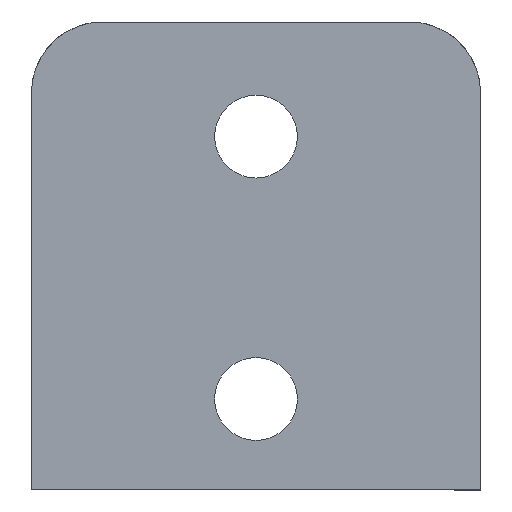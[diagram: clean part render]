
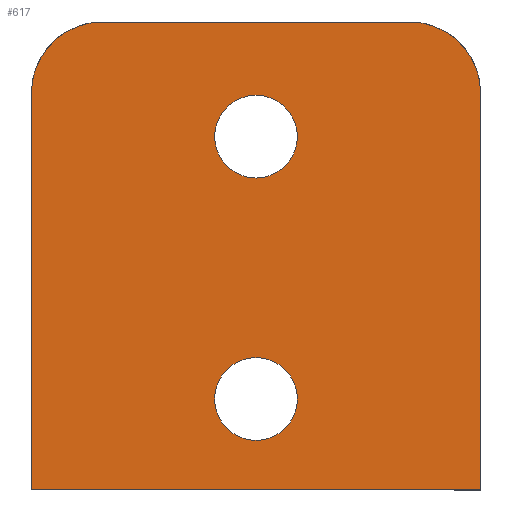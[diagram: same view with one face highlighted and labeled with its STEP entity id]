
A CAD part, front view. The second image highlights one B-rep face of the part: STEP entity #617.
In plain terms, the highlighted planar face has unit normal (0, -1, 0).
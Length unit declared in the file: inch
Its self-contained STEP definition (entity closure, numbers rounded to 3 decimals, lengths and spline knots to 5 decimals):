
#5 = ORIENTED_EDGE ( 'NONE', *, *, #390, .T. ) ;
#8 = CARTESIAN_POINT ( 'NONE',  ( 0.23622, 0., 0. ) ) ;
#10 = AXIS2_PLACEMENT_3D ( 'NONE', #355, #527, #524 ) ;
#11 = CARTESIAN_POINT ( 'NONE',  ( 0., 0., -1.55906 ) ) ;
#23 = CARTESIAN_POINT ( 'NONE',  ( 1.25984, 0., 0. ) ) ;
#34 = VERTEX_POINT ( 'NONE', #470 ) ;
#50 = AXIS2_PLACEMENT_3D ( 'NONE', #85, #644, #483 ) ;
#64 = ORIENTED_EDGE ( 'NONE', *, *, #509, .F. ) ;
#65 = AXIS2_PLACEMENT_3D ( 'NONE', #633, #692, #198 ) ;
#77 = LINE ( 'NONE', #11, #701 ) ;
#85 = CARTESIAN_POINT ( 'NONE',  ( 1.25984, 0., -0.23622 ) ) ;
#108 = DIRECTION ( 'NONE',  ( 0., 1., 0. ) ) ;
#110 = DIRECTION ( 'NONE',  ( 0., 0., 1. ) ) ;
#117 = DIRECTION ( 'NONE',  ( 0., 0., 1. ) ) ;
#128 = AXIS2_PLACEMENT_3D ( 'NONE', #438, #735, #794 ) ;
#136 = ORIENTED_EDGE ( 'NONE', *, *, #634, .F. ) ;
#151 = ORIENTED_EDGE ( 'NONE', *, *, #305, .F. ) ;
#157 = PLANE ( 'NONE',  #10 ) ;
#169 = EDGE_CURVE ( 'NONE', #773, #287, #747, .T. ) ;
#198 = DIRECTION ( 'NONE',  ( 0., 0., 1. ) ) ;
#205 = AXIS2_PLACEMENT_3D ( 'NONE', #650, #531, #777 ) ;
#219 = ORIENTED_EDGE ( 'NONE', *, *, #260, .T. ) ;
#222 = CIRCLE ( 'NONE', #128, 0.1378 ) ;
#260 = EDGE_CURVE ( 'NONE', #34, #464, #675, .T. ) ;
#261 = CARTESIAN_POINT ( 'NONE',  ( 1.49606, 0., -1.55906 ) ) ;
#267 = VECTOR ( 'NONE', #667, 39.37008 ) ;
#287 = VERTEX_POINT ( 'NONE', #556 ) ;
#305 = EDGE_CURVE ( 'NONE', #473, #661, #422, .T. ) ;
#310 = CIRCLE ( 'NONE', #700, 0.1378 ) ;
#314 = CARTESIAN_POINT ( 'NONE',  ( 0., 0., 0. ) ) ;
#318 = DIRECTION ( 'NONE',  ( 0., 1., 0. ) ) ;
#319 = EDGE_CURVE ( 'NONE', #638, #383, #790, .T. ) ;
#322 = CIRCLE ( 'NONE', #205, 0.23622 ) ;
#332 = FACE_OUTER_BOUND ( 'NONE', #599, .T. ) ;
#335 = EDGE_CURVE ( 'NONE', #533, #671, #222, .T. ) ;
#339 = DIRECTION ( 'NONE',  ( -1., 0., 0. ) ) ;
#340 = CARTESIAN_POINT ( 'NONE',  ( 0., 0., 0. ) ) ;
#341 = CIRCLE ( 'NONE', #65, 0.1378 ) ;
#347 = ORIENTED_EDGE ( 'NONE', *, *, #319, .F. ) ;
#355 = CARTESIAN_POINT ( 'NONE',  ( 0., 0., 0. ) ) ;
#383 = VERTEX_POINT ( 'NONE', #261 ) ;
#390 = EDGE_CURVE ( 'NONE', #464, #34, #310, .T. ) ;
#415 = CARTESIAN_POINT ( 'NONE',  ( 1.49606, 0., -0.23622 ) ) ;
#422 = LINE ( 'NONE', #314, #512 ) ;
#438 = CARTESIAN_POINT ( 'NONE',  ( 0.74803, 0., -0.38189 ) ) ;
#464 = VERTEX_POINT ( 'NONE', #566 ) ;
#470 = CARTESIAN_POINT ( 'NONE',  ( 0.74803, 0., -1.11811 ) ) ;
#473 = VERTEX_POINT ( 'NONE', #8 ) ;
#476 = VECTOR ( 'NONE', #732, 39.37008 ) ;
#483 = DIRECTION ( 'NONE',  ( 0., 0., -1. ) ) ;
#490 = CIRCLE ( 'NONE', #50, 0.23622 ) ;
#492 = CARTESIAN_POINT ( 'NONE',  ( 0.74803, 0., -1.25591 ) ) ;
#493 = ORIENTED_EDGE ( 'NONE', *, *, #335, .T. ) ;
#494 = EDGE_LOOP ( 'NONE', ( #621, #493 ) ) ;
#500 = CARTESIAN_POINT ( 'NONE',  ( 1.49606, 0., 0. ) ) ;
#509 = EDGE_CURVE ( 'NONE', #383, #773, #77, .T. ) ;
#512 = VECTOR ( 'NONE', #728, 39.37008 ) ;
#515 = CARTESIAN_POINT ( 'NONE',  ( 0.74803, 0., -0.51969 ) ) ;
#524 = DIRECTION ( 'NONE',  ( 0., 0., -1. ) ) ;
#527 = DIRECTION ( 'NONE',  ( 0., -1., 0. ) ) ;
#531 = DIRECTION ( 'NONE',  ( 0., 1., 0. ) ) ;
#533 = VERTEX_POINT ( 'NONE', #515 ) ;
#556 = CARTESIAN_POINT ( 'NONE',  ( 0., 0., -0.23622 ) ) ;
#563 = CARTESIAN_POINT ( 'NONE',  ( 0.74803, 0., -1.25591 ) ) ;
#566 = CARTESIAN_POINT ( 'NONE',  ( 0.74803, 0., -1.3937 ) ) ;
#578 = ORIENTED_EDGE ( 'NONE', *, *, #711, .T. ) ;
#599 = EDGE_LOOP ( 'NONE', ( #136, #745, #64, #347, #578, #151 ) ) ;
#602 = EDGE_CURVE ( 'NONE', #671, #533, #341, .T. ) ;
#617 = ADVANCED_FACE ( 'NONE', ( #332, #684, #642 ), #157, .T. ) ;
#621 = ORIENTED_EDGE ( 'NONE', *, *, #602, .T. ) ;
#633 = CARTESIAN_POINT ( 'NONE',  ( 0.74803, 0., -0.38189 ) ) ;
#634 = EDGE_CURVE ( 'NONE', #287, #473, #322, .T. ) ;
#638 = VERTEX_POINT ( 'NONE', #415 ) ;
#642 = FACE_BOUND ( 'NONE', #494, .T. ) ;
#644 = DIRECTION ( 'NONE',  ( 0., -1., 0. ) ) ;
#650 = CARTESIAN_POINT ( 'NONE',  ( 0.23622, 0., -0.23622 ) ) ;
#661 = VERTEX_POINT ( 'NONE', #23 ) ;
#665 = CARTESIAN_POINT ( 'NONE',  ( 0., 0., -1.55906 ) ) ;
#667 = DIRECTION ( 'NONE',  ( 0., 0., 1. ) ) ;
#671 = VERTEX_POINT ( 'NONE', #765 ) ;
#675 = CIRCLE ( 'NONE', #769, 0.1378 ) ;
#684 = FACE_BOUND ( 'NONE', #691, .T. ) ;
#691 = EDGE_LOOP ( 'NONE', ( #219, #5 ) ) ;
#692 = DIRECTION ( 'NONE',  ( 0., 1., 0. ) ) ;
#700 = AXIS2_PLACEMENT_3D ( 'NONE', #563, #318, #117 ) ;
#701 = VECTOR ( 'NONE', #339, 39.37008 ) ;
#711 = EDGE_CURVE ( 'NONE', #638, #661, #490, .T. ) ;
#728 = DIRECTION ( 'NONE',  ( 1., 0., 0. ) ) ;
#732 = DIRECTION ( 'NONE',  ( 0., 0., -1. ) ) ;
#735 = DIRECTION ( 'NONE',  ( 0., 1., 0. ) ) ;
#745 = ORIENTED_EDGE ( 'NONE', *, *, #169, .F. ) ;
#747 = LINE ( 'NONE', #340, #267 ) ;
#765 = CARTESIAN_POINT ( 'NONE',  ( 0.74803, 0., -0.24409 ) ) ;
#769 = AXIS2_PLACEMENT_3D ( 'NONE', #492, #108, #110 ) ;
#773 = VERTEX_POINT ( 'NONE', #665 ) ;
#777 = DIRECTION ( 'NONE',  ( 0., 0., -1. ) ) ;
#790 = LINE ( 'NONE', #500, #476 ) ;
#794 = DIRECTION ( 'NONE',  ( 0., 0., 1. ) ) ;
